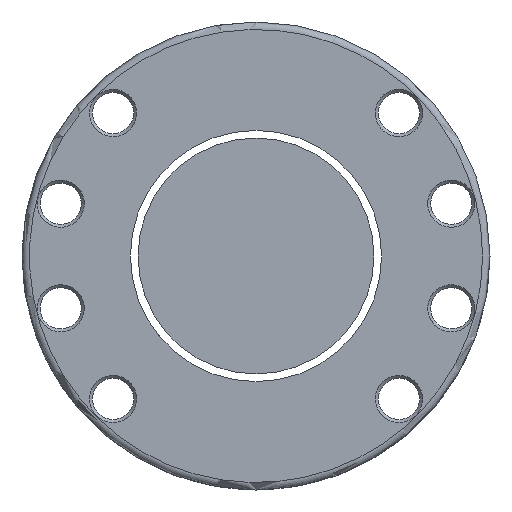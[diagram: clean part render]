
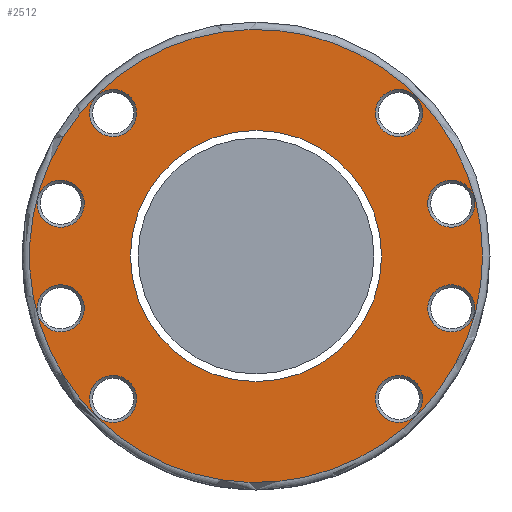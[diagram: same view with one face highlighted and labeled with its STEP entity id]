
A CAD part, left-side view. The second image highlights one B-rep face of the part: STEP entity #2512.
In plain terms, the highlighted planar face has unit normal (-1, 0, 0).
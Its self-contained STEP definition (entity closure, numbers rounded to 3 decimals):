
#11 = EDGE_LOOP ( 'NONE', ( #1674 ) ) ;
#45 = CARTESIAN_POINT ( 'NONE',  ( -93., -44.484, 38.184 ) ) ;
#61 = CARTESIAN_POINT ( 'NONE',  ( -93., 45.86, -13.976 ) ) ;
#77 = CARTESIAN_POINT ( 'NONE',  ( -93., 62.5, 0. ) ) ;
#85 = CARTESIAN_POINT ( 'NONE',  ( -93., 33.55, 0. ) ) ;
#92 = CIRCLE ( 'NONE', #1456, 6.3 ) ;
#94 = AXIS2_PLACEMENT_3D ( 'NONE', #2896, #847, #1066 ) ;
#134 = AXIS2_PLACEMENT_3D ( 'NONE', #77, #1645, #494 ) ;
#190 = AXIS2_PLACEMENT_3D ( 'NONE', #1376, #1178, #2898 ) ;
#193 = CIRCLE ( 'NONE', #428, 6.3 ) ;
#213 = EDGE_LOOP ( 'NONE', ( #2219 ) ) ;
#215 = CARTESIAN_POINT ( 'NONE',  ( -93., 0., 0. ) ) ;
#217 = EDGE_LOOP ( 'NONE', ( #691 ) ) ;
#233 = DIRECTION ( 'NONE',  ( 1., 0., 0. ) ) ;
#245 = CIRCLE ( 'NONE', #94, 33.55 ) ;
#260 = FACE_BOUND ( 'NONE', #2040, .T. ) ;
#264 = EDGE_CURVE ( 'NONE', #1135, #1135, #943, .T. ) ;
#287 = EDGE_CURVE ( 'NONE', #2852, #2852, #2100, .T. ) ;
#296 = CARTESIAN_POINT ( 'NONE',  ( -93., -38.184, 38.184 ) ) ;
#304 = FACE_BOUND ( 'NONE', #2453, .T. ) ;
#313 = PLANE ( 'NONE',  #134 ) ;
#344 = EDGE_CURVE ( 'NONE', #2529, #2529, #2481, .T. ) ;
#398 = AXIS2_PLACEMENT_3D ( 'NONE', #1331, #1104, #2240 ) ;
#416 = CARTESIAN_POINT ( 'NONE',  ( -93., -58.46, -13.976 ) ) ;
#422 = CIRCLE ( 'NONE', #789, 6.3 ) ;
#424 = ORIENTED_EDGE ( 'NONE', *, *, #344, .T. ) ;
#428 = AXIS2_PLACEMENT_3D ( 'NONE', #1508, #2863, #1984 ) ;
#444 = EDGE_CURVE ( 'NONE', #1618, #1618, #714, .T. ) ;
#491 = CARTESIAN_POINT ( 'NONE',  ( -93., 31.884, 38.184 ) ) ;
#494 = DIRECTION ( 'NONE',  ( 0., -1., 0. ) ) ;
#603 = ORIENTED_EDGE ( 'NONE', *, *, #1326, .T. ) ;
#691 = ORIENTED_EDGE ( 'NONE', *, *, #287, .T. ) ;
#714 = CIRCLE ( 'NONE', #2060, 6.3 ) ;
#718 = DIRECTION ( 'NONE',  ( 0., -1., 0. ) ) ;
#727 = FACE_OUTER_BOUND ( 'NONE', #1067, .T. ) ;
#739 = FACE_BOUND ( 'NONE', #1795, .T. ) ;
#750 = FACE_BOUND ( 'NONE', #1338, .T. ) ;
#789 = AXIS2_PLACEMENT_3D ( 'NONE', #2542, #2302, #1209 ) ;
#791 = EDGE_CURVE ( 'NONE', #2050, #2050, #92, .T. ) ;
#844 = AXIS2_PLACEMENT_3D ( 'NONE', #1146, #2482, #1161 ) ;
#847 = DIRECTION ( 'NONE',  ( 1., 0., 0. ) ) ;
#896 = AXIS2_PLACEMENT_3D ( 'NONE', #2667, #936, #2012 ) ;
#936 = DIRECTION ( 'NONE',  ( 1., 0., 0. ) ) ;
#943 = CIRCLE ( 'NONE', #844, 6.3 ) ;
#983 = VERTEX_POINT ( 'NONE', #85 ) ;
#1066 = DIRECTION ( 'NONE',  ( 0., 1., 0. ) ) ;
#1067 = EDGE_LOOP ( 'NONE', ( #424 ) ) ;
#1070 = CARTESIAN_POINT ( 'NONE',  ( -93., 45.86, 13.976 ) ) ;
#1082 = EDGE_CURVE ( 'NONE', #1180, #1180, #2432, .T. ) ;
#1104 = DIRECTION ( 'NONE',  ( 1., 0., 0. ) ) ;
#1135 = VERTEX_POINT ( 'NONE', #1070 ) ;
#1146 = CARTESIAN_POINT ( 'NONE',  ( -93., 52.16, 13.976 ) ) ;
#1157 = ORIENTED_EDGE ( 'NONE', *, *, #1399, .T. ) ;
#1161 = DIRECTION ( 'NONE',  ( 0., -1., 0. ) ) ;
#1173 = ORIENTED_EDGE ( 'NONE', *, *, #2690, .T. ) ;
#1178 = DIRECTION ( 'NONE',  ( 1., 0., 0. ) ) ;
#1180 = VERTEX_POINT ( 'NONE', #61 ) ;
#1196 = CARTESIAN_POINT ( 'NONE',  ( -93., -44.484, -38.184 ) ) ;
#1209 = DIRECTION ( 'NONE',  ( 0., -1., 0. ) ) ;
#1222 = AXIS2_PLACEMENT_3D ( 'NONE', #215, #1780, #2249 ) ;
#1326 = EDGE_CURVE ( 'NONE', #1406, #1406, #193, .T. ) ;
#1331 = CARTESIAN_POINT ( 'NONE',  ( -93., -52.16, -13.976 ) ) ;
#1338 = EDGE_LOOP ( 'NONE', ( #2881 ) ) ;
#1353 = CARTESIAN_POINT ( 'NONE',  ( -93., -38.184, -38.184 ) ) ;
#1376 = CARTESIAN_POINT ( 'NONE',  ( -93., 52.16, -13.976 ) ) ;
#1399 = EDGE_CURVE ( 'NONE', #983, #983, #245, .T. ) ;
#1401 = DIRECTION ( 'NONE',  ( 1., 0., 0. ) ) ;
#1406 = VERTEX_POINT ( 'NONE', #491 ) ;
#1456 = AXIS2_PLACEMENT_3D ( 'NONE', #296, #1401, #1569 ) ;
#1508 = CARTESIAN_POINT ( 'NONE',  ( -93., 38.184, 38.184 ) ) ;
#1569 = DIRECTION ( 'NONE',  ( 0., -1., 0. ) ) ;
#1618 = VERTEX_POINT ( 'NONE', #1196 ) ;
#1621 = FACE_BOUND ( 'NONE', #217, .T. ) ;
#1630 = CARTESIAN_POINT ( 'NONE',  ( -93., 31.884, -38.184 ) ) ;
#1645 = DIRECTION ( 'NONE',  ( -1., 0., 0. ) ) ;
#1663 = CARTESIAN_POINT ( 'NONE',  ( -93., -58.46, 13.976 ) ) ;
#1674 = ORIENTED_EDGE ( 'NONE', *, *, #444, .T. ) ;
#1705 = CIRCLE ( 'NONE', #398, 6.3 ) ;
#1780 = DIRECTION ( 'NONE',  ( -1., 0., 0. ) ) ;
#1795 = EDGE_LOOP ( 'NONE', ( #2694 ) ) ;
#1863 = FACE_BOUND ( 'NONE', #213, .T. ) ;
#1883 = VERTEX_POINT ( 'NONE', #1663 ) ;
#1984 = DIRECTION ( 'NONE',  ( 0., -1., 0. ) ) ;
#2012 = DIRECTION ( 'NONE',  ( 0., -1., 0. ) ) ;
#2040 = EDGE_LOOP ( 'NONE', ( #603 ) ) ;
#2050 = VERTEX_POINT ( 'NONE', #45 ) ;
#2060 = AXIS2_PLACEMENT_3D ( 'NONE', #1353, #233, #718 ) ;
#2089 = CARTESIAN_POINT ( 'NONE',  ( -93., -60.5, 0. ) ) ;
#2100 = CIRCLE ( 'NONE', #896, 6.3 ) ;
#2111 = EDGE_LOOP ( 'NONE', ( #1173 ) ) ;
#2159 = VERTEX_POINT ( 'NONE', #416 ) ;
#2219 = ORIENTED_EDGE ( 'NONE', *, *, #2871, .T. ) ;
#2240 = DIRECTION ( 'NONE',  ( 0., -1., 0. ) ) ;
#2249 = DIRECTION ( 'NONE',  ( 0., -1., 0. ) ) ;
#2266 = ORIENTED_EDGE ( 'NONE', *, *, #791, .T. ) ;
#2286 = FACE_BOUND ( 'NONE', #2111, .T. ) ;
#2302 = DIRECTION ( 'NONE',  ( 1., 0., 0. ) ) ;
#2313 = FACE_BOUND ( 'NONE', #11, .T. ) ;
#2432 = CIRCLE ( 'NONE', #190, 6.3 ) ;
#2453 = EDGE_LOOP ( 'NONE', ( #2266 ) ) ;
#2481 = CIRCLE ( 'NONE', #1222, 60.5 ) ;
#2482 = DIRECTION ( 'NONE',  ( 1., 0., 0. ) ) ;
#2512 = ADVANCED_FACE ( 'NONE', ( #727, #2286, #304, #260, #750, #739, #1621, #2313, #1863, #2520 ), #313, .T. ) ;
#2520 = FACE_BOUND ( 'NONE', #2826, .T. ) ;
#2529 = VERTEX_POINT ( 'NONE', #2089 ) ;
#2542 = CARTESIAN_POINT ( 'NONE',  ( -93., -52.16, 13.976 ) ) ;
#2667 = CARTESIAN_POINT ( 'NONE',  ( -93., 38.184, -38.184 ) ) ;
#2690 = EDGE_CURVE ( 'NONE', #1883, #1883, #422, .T. ) ;
#2694 = ORIENTED_EDGE ( 'NONE', *, *, #1082, .T. ) ;
#2826 = EDGE_LOOP ( 'NONE', ( #1157 ) ) ;
#2852 = VERTEX_POINT ( 'NONE', #1630 ) ;
#2863 = DIRECTION ( 'NONE',  ( 1., 0., 0. ) ) ;
#2871 = EDGE_CURVE ( 'NONE', #2159, #2159, #1705, .T. ) ;
#2881 = ORIENTED_EDGE ( 'NONE', *, *, #264, .T. ) ;
#2896 = CARTESIAN_POINT ( 'NONE',  ( -93., 0., 0. ) ) ;
#2898 = DIRECTION ( 'NONE',  ( 0., -1., 0. ) ) ;
